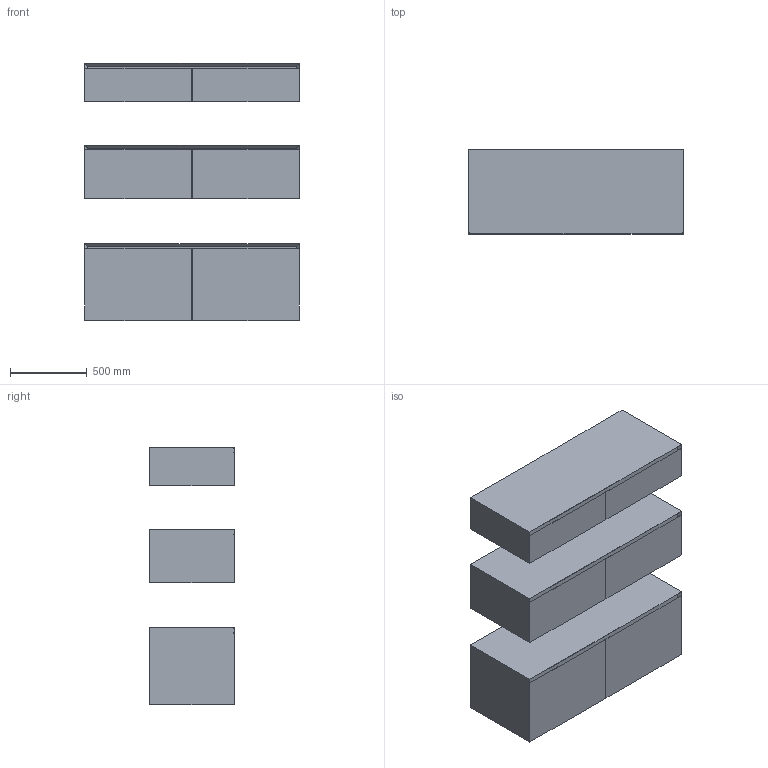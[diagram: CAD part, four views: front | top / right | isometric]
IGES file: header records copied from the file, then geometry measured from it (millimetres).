
Global section: file name: \\Archi-NAS\Comune\X GIOVANNI\MOBILI\EVOLINE\EVOLINE_2.igs; native system: Rhinoceros ( Feb 23 2021 ); preprocessor: Trout Lake IGES 012 Feb 23 2021; date: 230607.145607; units: millimetre
Bounding box: 1400 x 550 x 1676.31 mm (x, y, z)
Surface area: 25548377.1 mm2 (no closed solid volume)
Topology: 0 solids, 0 shells, 319 faces, 2088 edges, 2088 vertices
Faces by surface type: bspline 319
